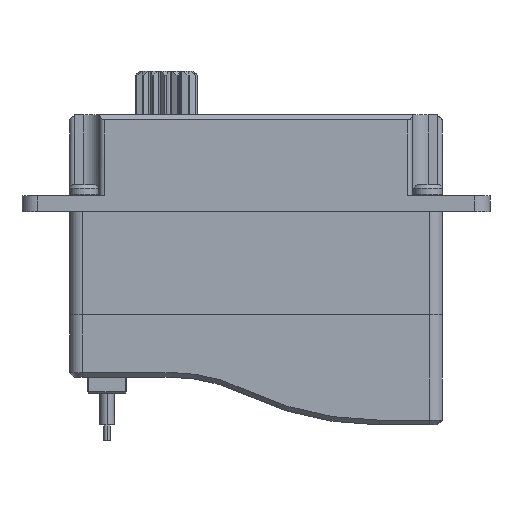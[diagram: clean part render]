
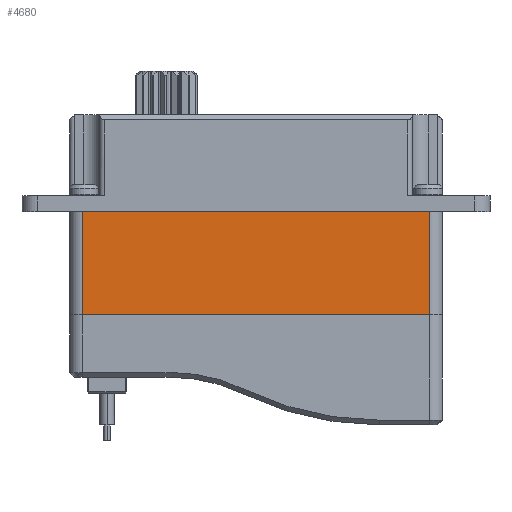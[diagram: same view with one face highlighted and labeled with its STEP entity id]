
A CAD part, front view. The second image highlights one B-rep face of the part: STEP entity #4680.
In plain terms, the highlighted planar face has unit normal (0, -1, 0).
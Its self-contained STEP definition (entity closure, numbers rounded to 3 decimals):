
#110 = VERTEX_POINT ( 'NONE', #3662 ) ;
#181 = LINE ( 'NONE', #4389, #11353 ) ;
#470 = VECTOR ( 'NONE', #8713, 1000. ) ;
#1073 = DIRECTION ( 'NONE',  ( 0., -1., 0. ) ) ;
#1190 = AXIS2_PLACEMENT_3D ( 'NONE', #8049, #1073, #6769 ) ;
#1560 = VECTOR ( 'NONE', #13525, 1000. ) ;
#1764 = LINE ( 'NONE', #3937, #11797 ) ;
#1896 = CARTESIAN_POINT ( 'NONE',  ( -32.659, -8.718, 1.975 ) ) ;
#2091 = EDGE_LOOP ( 'NONE', ( #13914, #8357, #12756, #5965 ) ) ;
#2542 = FACE_OUTER_BOUND ( 'NONE', #2091, .T. ) ;
#2705 = EDGE_CURVE ( 'NONE', #6858, #110, #181, .T. ) ;
#2818 = LINE ( 'NONE', #1896, #1560 ) ;
#2999 = CARTESIAN_POINT ( 'NONE',  ( -36.689, -8.718, -4.525 ) ) ;
#3261 = CARTESIAN_POINT ( 'NONE',  ( -32.659, -8.718, 1.975 ) ) ;
#3662 = CARTESIAN_POINT ( 'NONE',  ( -54.559, -8.718, -4.525 ) ) ;
#3937 = CARTESIAN_POINT ( 'NONE',  ( -31.859, -8.718, 1.975 ) ) ;
#4076 = VERTEX_POINT ( 'NONE', #3261 ) ;
#4389 = CARTESIAN_POINT ( 'NONE',  ( -54.559, -8.718, 1.975 ) ) ;
#4680 = ADVANCED_FACE ( 'NONE', ( #2542 ), #11531, .T. ) ;
#5514 = EDGE_CURVE ( 'NONE', #6858, #4076, #1764, .T. ) ;
#5965 = ORIENTED_EDGE ( 'NONE', *, *, #14834, .F. ) ;
#6284 = VERTEX_POINT ( 'NONE', #11105 ) ;
#6769 = DIRECTION ( 'NONE',  ( 0., 0., -1. ) ) ;
#6837 = LINE ( 'NONE', #2999, #470 ) ;
#6858 = VERTEX_POINT ( 'NONE', #9637 ) ;
#7354 = DIRECTION ( 'NONE',  ( 1., 0., 0. ) ) ;
#8049 = CARTESIAN_POINT ( 'NONE',  ( -31.859, -8.718, 1.975 ) ) ;
#8357 = ORIENTED_EDGE ( 'NONE', *, *, #2705, .T. ) ;
#8713 = DIRECTION ( 'NONE',  ( -1., 0., 0. ) ) ;
#9637 = CARTESIAN_POINT ( 'NONE',  ( -54.559, -8.718, 1.975 ) ) ;
#11105 = CARTESIAN_POINT ( 'NONE',  ( -32.659, -8.718, -4.525 ) ) ;
#11353 = VECTOR ( 'NONE', #11455, 1000. ) ;
#11455 = DIRECTION ( 'NONE',  ( 0., 0., -1. ) ) ;
#11464 = EDGE_CURVE ( 'NONE', #6284, #110, #6837, .T. ) ;
#11531 = PLANE ( 'NONE',  #1190 ) ;
#11797 = VECTOR ( 'NONE', #7354, 1000. ) ;
#12756 = ORIENTED_EDGE ( 'NONE', *, *, #11464, .F. ) ;
#13525 = DIRECTION ( 'NONE',  ( 0., 0., -1. ) ) ;
#13914 = ORIENTED_EDGE ( 'NONE', *, *, #5514, .F. ) ;
#14834 = EDGE_CURVE ( 'NONE', #4076, #6284, #2818, .T. ) ;
